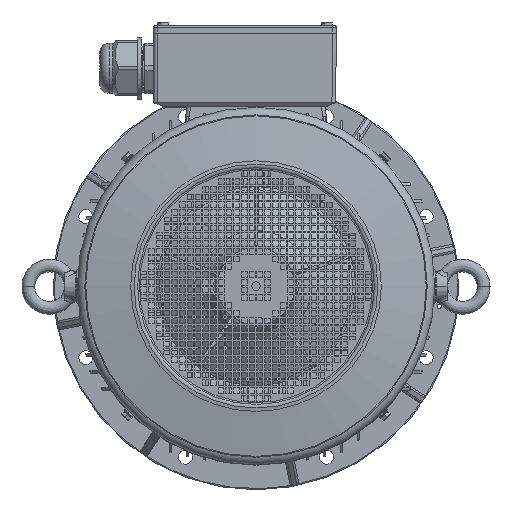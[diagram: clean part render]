
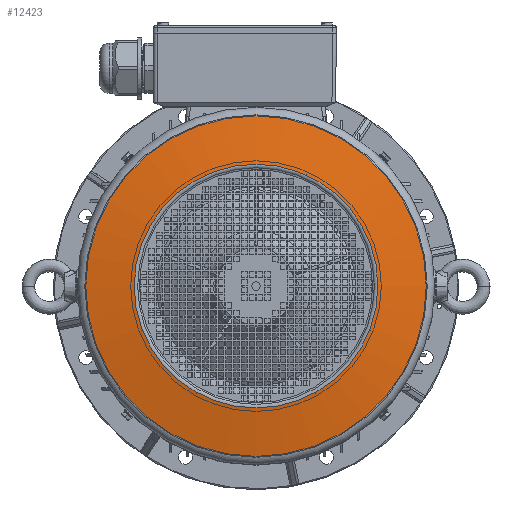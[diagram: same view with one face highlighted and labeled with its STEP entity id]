
A CAD part, top view. The second image highlights one B-rep face of the part: STEP entity #12423.
In plain terms, the highlighted conical face has half-angle 80 degrees and reference radius 165.867 mm.
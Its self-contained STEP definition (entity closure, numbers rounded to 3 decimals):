
#2708=CONICAL_SURFACE('',#113829,165.867,80.);
#5487=FACE_BOUND('',#26201,.T.);
#5488=FACE_BOUND('',#26202,.T.);
#12423=ADVANCED_FACE('',(#5487,#5488),#2708,.T.);
#26201=EDGE_LOOP('',(#70110));
#26202=EDGE_LOOP('',(#70111));
#70110=ORIENTED_EDGE('',*,*,#103097,.F.);
#70111=ORIENTED_EDGE('',*,*,#103098,.T.);
#90356=VERTEX_POINT('',#197327);
#90357=VERTEX_POINT('',#197329);
#103097=EDGE_CURVE('',#90356,#90356,#108288,.T.);
#103098=EDGE_CURVE('',#90357,#90357,#108289,.T.);
#108288=CIRCLE('',#113827,230.931);
#108289=CIRCLE('',#113828,165.297);
#113827=AXIS2_PLACEMENT_3D('',#197326,#135393,#135394);
#113828=AXIS2_PLACEMENT_3D('',#197328,#135395,#135396);
#113829=AXIS2_PLACEMENT_3D('',#197330,#135397,#135398);
#135393=DIRECTION('',(0.,0.,-1.));
#135394=DIRECTION('',(-1.,0.,0.));
#135395=DIRECTION('',(0.,0.,-1.));
#135396=DIRECTION('',(-1.,0.,0.));
#135397=DIRECTION('',(0.,0.,-1.));
#135398=DIRECTION('',(1.,-0.002,0.));
#197326=CARTESIAN_POINT('',(-129.172,-38.734,422.936));
#197327=CARTESIAN_POINT('',(-360.103,-38.734,422.936));
#197328=CARTESIAN_POINT('',(-129.172,-38.734,434.509));
#197329=CARTESIAN_POINT('',(-294.469,-38.734,434.509));
#197330=CARTESIAN_POINT('',(-129.172,-38.734,434.409));
